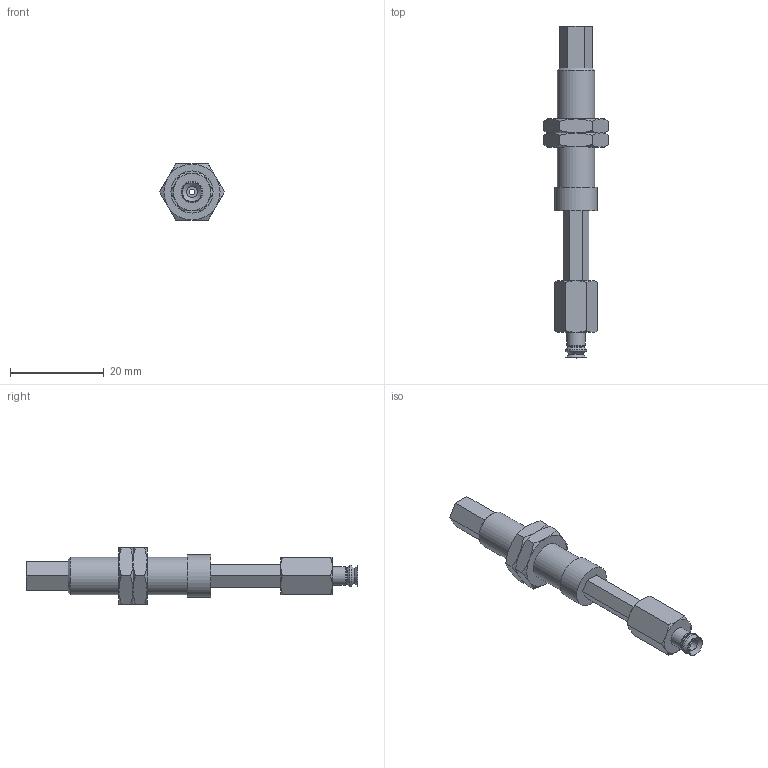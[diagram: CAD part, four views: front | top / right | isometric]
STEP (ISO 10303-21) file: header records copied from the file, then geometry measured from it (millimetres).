
FILE_DESCRIPTION(('STEP AP203'),'1');
FILE_NAME('.stp','2025-08-27T06:10:38',(' '),(' '),'Spatial InterOp 3D',' ',' ');
FILE_SCHEMA(('CONFIG_CONTROL_DESIGN'));
Length unit declared in the file: millimetre
Products named in the file (6): BNABPJTH-4-15-※; ADAPTER; NAPFTH-2A-15-MBODY; Nut-2A-15-h; NAPFTH-2A-15-FBODY; BPJG-4-※
Assembly tree (6 placements, depth 2):
  BNABPJTH-4-15-※
    ADAPTER
    NAPFTH-2A-15-MBODY
    Nut-2A-15-h  x2
    NAPFTH-2A-15-FBODY
    BPJG-4-※
Bounding box: 13.86 x 71 x 12 mm (x, y, z)
Volume: 3233.5 mm3; surface area: 3881.1 mm2
Topology: 6 solids, 6 shells, 124 faces, 270 edges, 163 vertices
Faces by surface type: plane 53, cone 49, cylinder 13, torus 9
Full cylindrical faces by diameter (mm): 1.2 x2, 2 x2, 2.4 x1, 2.459 x1, 3 x2, 4 x1, 7.188 x2, 8 x1, 9 x1
Entity records: 3004 total; most frequent: CARTESIAN_POINT 702, DIRECTION 414, ORIENTED_EDGE 360, EDGE_CURVE 180, AXIS2_PLACEMENT_3D 174, EDGE_LOOP 148, VERTEX_POINT 126, FACE_OUTER_BOUND 122
